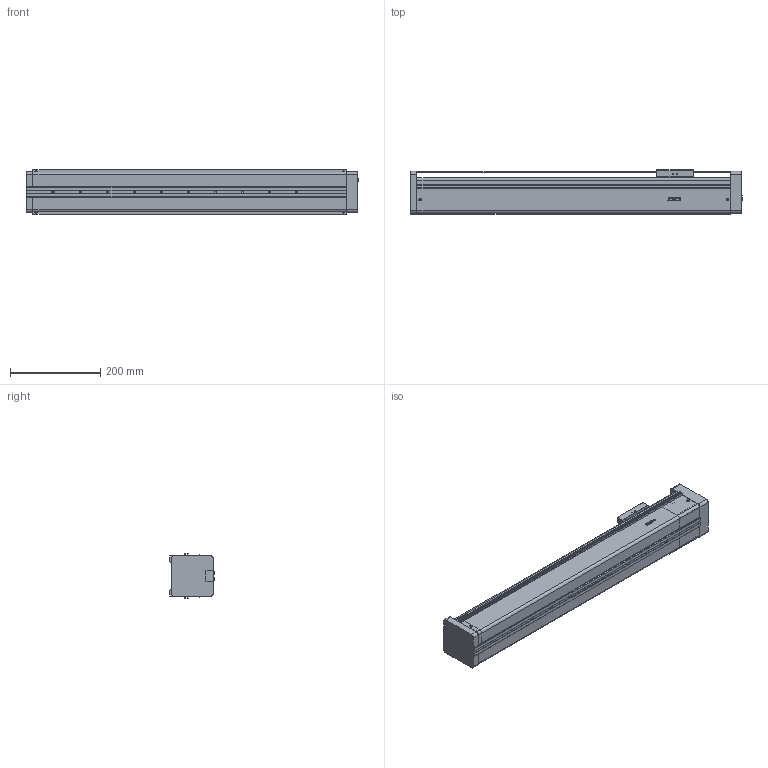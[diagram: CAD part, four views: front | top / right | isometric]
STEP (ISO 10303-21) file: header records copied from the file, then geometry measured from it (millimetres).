
FILE_DESCRIPTION(/* description */ (''),/* implementation_level */ '2;1');
FILE_NAME(/* name */ 'D:\混合母檔20191031\混和母檔\混和母檔\bin\Debug\Download\3D\KE905C-500AF0\KE905C-500AF0.stp',/* time_stamp */ '2019-11-04T14:18:52+08:00',/* author */ ('user'),/* organization */ (''),/* preprocessor_version */ 'ST-DEVELOPER v16.13',/* originating_system */ 'Autodesk Inventor 2018',/* authorisation */ '');
FILE_SCHEMA (('AUTOMOTIVE_DESIGN { 1 0 10303 214 3 1 1 }'));
Length unit declared in the file: millimetre
Products named in the file (3): KE905C-500AF0; KE90-F0-BP; KE90-SL
Assembly tree (2 placements, depth 2):
  KE905C-500AF0
    KE90-F0-BP
    KE90-SL
Bounding box: 736 x 98 x 98.4 mm (x, y, z)
Volume: 5122275.3 mm3; surface area: 470696.4 mm2
Topology: 3 solids, 22 shells, 881 faces, 2332 edges, 1538 vertices
Faces by surface type: plane 494, bspline 136, cone 120, cylinder 83, torus 40, sphere 8
Full cylindrical faces by diameter (mm): 2.5 x16, 3 x2, 3.3 x4, 4.2 x4, 4.5 x6, 4.917 x10, 5 x9, 8 x7, 46 x1, 50 x1
Entity records: 30688 total; most frequent: CARTESIAN_POINT 9580, ORIENTED_EDGE 4374, DIRECTION 3869, EDGE_CURVE 2187, VERTEX_POINT 1497, AXIS2_PLACEMENT_3D 1312, LINE 1245, VECTOR 1245
